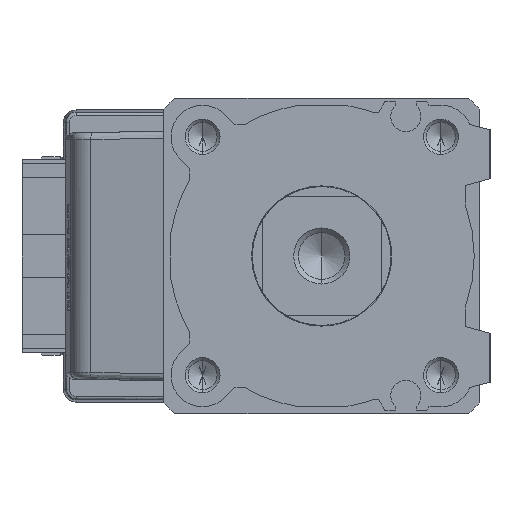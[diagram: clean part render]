
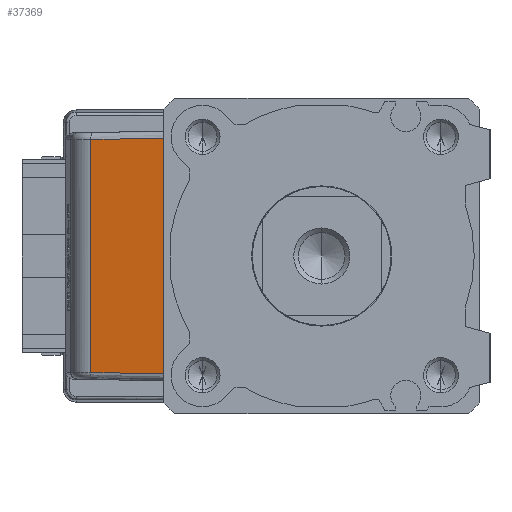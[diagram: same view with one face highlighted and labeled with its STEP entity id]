
A CAD part, left-side view. The second image highlights one B-rep face of the part: STEP entity #37369.
In plain terms, the highlighted planar face has unit normal (-0.985, 0.174, 0) as drawn and (0, 0.174, 0.985) by its records, which use the part's own axes.
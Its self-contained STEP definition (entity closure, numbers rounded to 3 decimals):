
#579 = CARTESIAN_POINT ( 'NONE',  ( 16.825, 21., -38.277 ) ) ;
#605 = DIRECTION ( 'NONE',  ( -1., 0., 0. ) ) ;
#624 = LINE ( 'NONE', #16613, #23266 ) ;
#2251 = CARTESIAN_POINT ( 'NONE',  ( 16.617, 32.922, -40.379 ) ) ;
#2769 = VECTOR ( 'NONE', #28674, 1000. ) ;
#3167 = VERTEX_POINT ( 'NONE', #34676 ) ;
#4195 = CARTESIAN_POINT ( 'NONE',  ( 0., 21., -38.277 ) ) ;
#4880 = VERTEX_POINT ( 'NONE', #2251 ) ;
#7144 = LINE ( 'NONE', #7341, #31080 ) ;
#7341 = CARTESIAN_POINT ( 'NONE',  ( -17.568, 32.922, -40.379 ) ) ;
#8512 = PLANE ( 'NONE',  #26654 ) ;
#9457 = ORIENTED_EDGE ( 'NONE', *, *, #19949, .T. ) ;
#10421 = DIRECTION ( 'NONE',  ( -0.017, -0.985, 0.174 ) ) ;
#10614 = ORIENTED_EDGE ( 'NONE', *, *, #36252, .T. ) ;
#13605 = DIRECTION ( 'NONE',  ( 1., 0., 0. ) ) ;
#13837 = EDGE_CURVE ( 'NONE', #4880, #31254, #7144, .T. ) ;
#14470 = ORIENTED_EDGE ( 'NONE', *, *, #16971, .T. ) ;
#14906 = VECTOR ( 'NONE', #13605, 1000. ) ;
#16031 = LINE ( 'NONE', #18543, #2769 ) ;
#16613 = CARTESIAN_POINT ( 'NONE',  ( -16.825, 20.983, -38.274 ) ) ;
#16971 = EDGE_CURVE ( 'NONE', #31254, #3167, #624, .T. ) ;
#18543 = CARTESIAN_POINT ( 'NONE',  ( 16.617, 32.905, -40.376 ) ) ;
#19595 = LINE ( 'NONE', #4195, #14906 ) ;
#19949 = EDGE_CURVE ( 'NONE', #25513, #4880, #16031, .T. ) ;
#21067 = DIRECTION ( 'NONE',  ( 1., 0., 0. ) ) ;
#23266 = VECTOR ( 'NONE', #10421, 1000. ) ;
#25513 = VERTEX_POINT ( 'NONE', #579 ) ;
#26654 = AXIS2_PLACEMENT_3D ( 'NONE', #33285, #33081, #21067 ) ;
#28674 = DIRECTION ( 'NONE',  ( -0.017, 0.985, -0.174 ) ) ;
#31080 = VECTOR ( 'NONE', #605, 1000. ) ;
#31254 = VERTEX_POINT ( 'NONE', #32360 ) ;
#32360 = CARTESIAN_POINT ( 'NONE',  ( -16.617, 32.922, -40.379 ) ) ;
#32878 = FACE_OUTER_BOUND ( 'NONE', #39371, .T. ) ;
#33081 = DIRECTION ( 'NONE',  ( 0., -0.174, -0.985 ) ) ;
#33285 = CARTESIAN_POINT ( 'NONE',  ( 0., 21.26, -38.323 ) ) ;
#34676 = CARTESIAN_POINT ( 'NONE',  ( -16.825, 21., -38.277 ) ) ;
#36252 = EDGE_CURVE ( 'NONE', #3167, #25513, #19595, .T. ) ;
#36422 = ORIENTED_EDGE ( 'NONE', *, *, #13837, .T. ) ;
#37369 = ADVANCED_FACE ( 'NONE', ( #32878 ), #8512, .F. ) ;
#39371 = EDGE_LOOP ( 'NONE', ( #36422, #14470, #10614, #9457 ) ) ;
